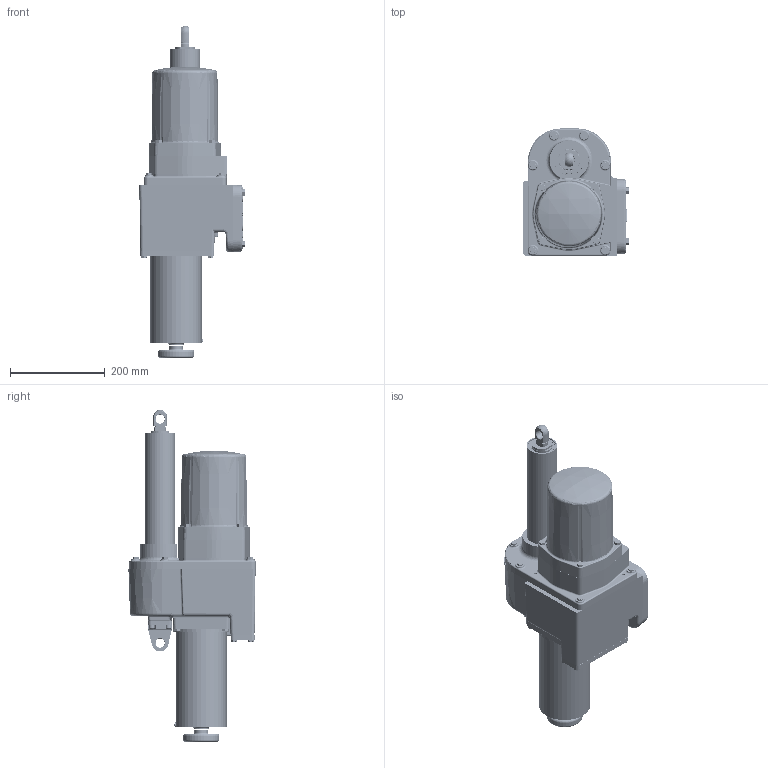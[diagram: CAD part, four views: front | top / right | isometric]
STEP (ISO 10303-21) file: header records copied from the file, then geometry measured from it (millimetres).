
FILE_DESCRIPTION (( 'STEP AP203' ), '1' );
FILE_NAME ('18-4217-01_8_solid.STEP', '2011-07-08T13:07:23', ( '' ), ( '' ), 'SwSTEP 2.0', 'SolidWorks 2009', '' );
FILE_SCHEMA (( 'CONFIG_CONTROL_DESIGN' ));
Length unit declared in the file: inch
Products named in the file (1): 18-4217-01_8_solid
Bounding box: 222.58 x 268.45 x 700.3 mm (x, y, z)
Volume: 5253086 mm3; surface area: 1433727.5 mm2
Topology: 53 solids, 53 shells, 4096 faces, 9795 edges, 5735 vertices
Faces by surface type: cylinder 1327, plane 939, cone 792, torus 461, bspline 425, sphere 152
Entity records: 181376 total; most frequent: CARTESIAN_POINT 88927, DIRECTION 19897, ORIENTED_EDGE 19124, EDGE_CURVE 9562, AXIS2_PLACEMENT_3D 8195, VERTEX_POINT 5729, CIRCLE 4523, EDGE_LOOP 4481
